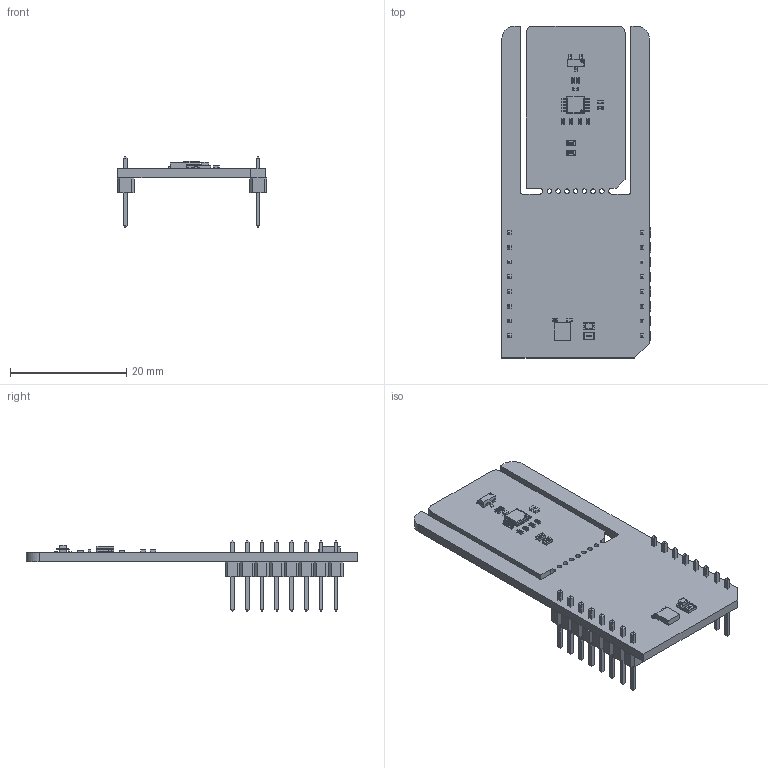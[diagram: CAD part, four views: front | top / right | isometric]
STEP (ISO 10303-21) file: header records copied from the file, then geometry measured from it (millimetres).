
FILE_DESCRIPTION(('Open CASCADE Model'),'2;1');
FILE_NAME('Open CASCADE Shape Model','2026-05-14T14:07:26',('Author'),( 'Open CASCADE'),'Open CASCADE STEP processor 7.5','Open CASCADE 7.5' ,'Unknown');
FILE_SCHEMA(('AUTOMOTIVE_DESIGN { 1 0 10303 214 1 1 1 1 }'));
Length unit declared in the file: millimetre
Products named in the file (37): PCB; Board; Open CASCADE STEP translator 7.5 1.1.1; JP1; User Library-R_0603; MBD1; Header 1x8; Free-Models; 1240637040; User_Library-PinHeaderX5-1_PinHeaderX5_Body_1; User_Library-PinHeaderX5-1_PinHeaderX5_Pins_1; C2; User Library-SMD CAPACITOR0402; C3; C5; Q2; SOT23-3; R3; User Library-R_0402; R5; R6; R8; R7; U2; TPS53015DGS; JP2; R4; R1; User Library-R_0805; LD1; led_0805_green; R2; C1; U1; 8797807696; Extruded
Assembly tree (48 placements, depth 7):
  PCB
    Board
      Open CASCADE STEP translator 7.5 1.1.1
    JP1
      User Library-R_0603
    MBD1
      Header 1x8  x2
        PCB
          Free-Models
            1240637040  x2
              User_Library-PinHeaderX5-1_PinHeaderX5_Body_1
              User_Library-PinHeaderX5-1_PinHeaderX5_Pins_1
    C2
      User Library-SMD CAPACITOR0402
    C3
      User Library-SMD CAPACITOR0402
    C5
      User Library-SMD CAPACITOR0402
    Q2
      SOT23-3
    R3
      User Library-R_0402
    R5
      User Library-R_0402
    R6
      User Library-R_0402
    R8
      User Library-R_0402
    R7
      User Library-R_0402
    U2
      TPS53015DGS
    JP2
      User Library-R_0603
    R4
      User Library-R_0402
    R1
      User Library-R_0805
    LD1
      led_0805_green
    R2
      User Library-R_0402
    C1
      User Library-SMD CAPACITOR0402
    U1
      8797807696
        Extruded
Bounding box: 25.78 x 57.15 x 12.19 mm (x, y, z)
Volume: 2682.7 mm3; surface area: 4714.8 mm2
Topology: 68 solids, 68 shells, 1875 faces, 4676 edges, 2984 vertices
Faces by surface type: plane 1349, bspline 322, cylinder 166, sphere 38
Full cylindrical faces by diameter (mm): 0.8 x7
Entity records: 33426 total; most frequent: CARTESIAN_POINT 11360, ORIENTED_EDGE 3844, DIRECTION 3323, EDGE_CURVE 1922, LINE 1461, VECTOR 1461, VERTEX_POINT 1236, AXIS2_PLACEMENT_3D 931
